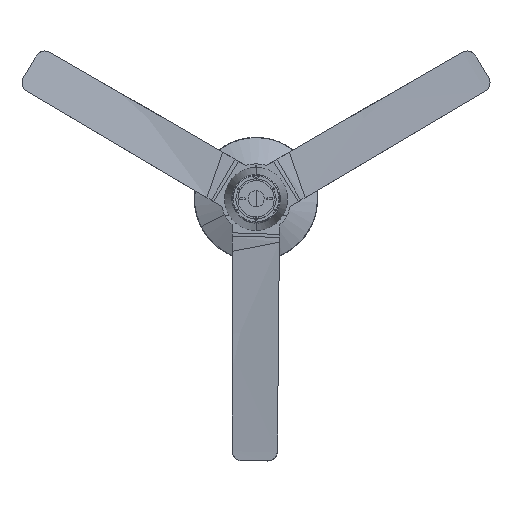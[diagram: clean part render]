
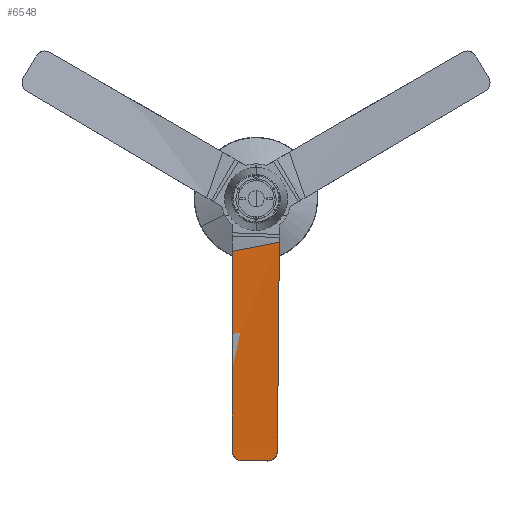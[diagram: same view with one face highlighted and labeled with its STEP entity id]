
A CAD part, top view. The second image highlights one B-rep face of the part: STEP entity #6548.
In plain terms, the highlighted free-form (B-spline) face has degree [3, 1] with [6, 2] control points.
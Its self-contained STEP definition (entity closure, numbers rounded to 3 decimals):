
#13=B_SPLINE_SURFACE_WITH_KNOTS('',3,1,((#34503,#34504),(#34505,#34506),
(#34507,#34508),(#34509,#34510),(#34511,#34512),(#34513,#34514)),
 .UNSPECIFIED.,.F.,.F.,.F.,(4,1,1,4),(2,2),(0.,184.784,369.567,
542.804),(0.,119.831),.UNSPECIFIED.);
#6548=ADVANCED_FACE('',(#7236),#13,.T.);
#7236=FACE_OUTER_BOUND('',#7969,.T.);
#7969=EDGE_LOOP('',(#11301,#11302,#11303,#11304,#11305,#11306));
#11301=ORIENTED_EDGE('',*,*,#13713,.T.);
#11302=ORIENTED_EDGE('',*,*,#13714,.T.);
#11303=ORIENTED_EDGE('',*,*,#13715,.T.);
#11304=ORIENTED_EDGE('',*,*,#13716,.T.);
#11305=ORIENTED_EDGE('',*,*,#13717,.T.);
#11306=ORIENTED_EDGE('',*,*,#13718,.T.);
#13713=EDGE_CURVE('',#18691,#18692,#15630,.T.);
#13714=EDGE_CURVE('',#18692,#18693,#15631,.T.);
#13715=EDGE_CURVE('',#18693,#18694,#15632,.T.);
#13716=EDGE_CURVE('',#18694,#18695,#15633,.T.);
#13717=EDGE_CURVE('',#18695,#18696,#15634,.T.);
#13718=EDGE_CURVE('',#18696,#18691,#15635,.T.);
#15630=B_SPLINE_CURVE_WITH_KNOTS('',1,(#34521,#34522),.UNSPECIFIED.,.F.,
 .F.,(2,2),(0.,119.505),.UNSPECIFIED.);
#15631=B_SPLINE_CURVE_WITH_KNOTS('',3,(#34523,#34524,#34525,#34526,#34527,
#34528,#34529,#34530,#34531,#34532,#34533,#34534,#34535,#34536,#34537,#34538,
#34539,#34540,#34541),.UNSPECIFIED.,.F.,.F.,(4,3,3,3,3,3,4),(0.,72.975,
152.356,248.414,334.537,422.643,496.831),
 .UNSPECIFIED.);
#15632=B_SPLINE_CURVE_WITH_KNOTS('',3,(#34542,#34543,#34544,#34545,#34546,
#34547,#34548,#34549,#34550,#34551),.UNSPECIFIED.,.F.,.F.,(4,2,2,2,4),(0.,
9.898,19.216,28.878,38.429),
 .UNSPECIFIED.);
#15633=B_SPLINE_CURVE_WITH_KNOTS('',3,(#34552,#34553,#34554,#34555,#34556,
#34557),.UNSPECIFIED.,.F.,.F.,(4,2,4),(0.,31.713,63.426),
 .UNSPECIFIED.);
#15634=B_SPLINE_CURVE_WITH_KNOTS('',3,(#34558,#34559,#34560,#34561,#34562,
#34563,#34564,#34565,#34566,#34567),.UNSPECIFIED.,.F.,.F.,(4,2,2,2,4),(0.,
9.02,18.45,27.437,36.898),
 .UNSPECIFIED.);
#15635=B_SPLINE_CURVE_WITH_KNOTS('',3,(#34568,#34569,#34570,#34571,#34572,
#34573),.UNSPECIFIED.,.F.,.F.,(4,2,4),(0.,260.471,520.938),
 .UNSPECIFIED.);
#18691=VERTEX_POINT('',#34515);
#18692=VERTEX_POINT('',#34516);
#18693=VERTEX_POINT('',#34517);
#18694=VERTEX_POINT('',#34518);
#18695=VERTEX_POINT('',#34519);
#18696=VERTEX_POINT('',#34520);
#34503=CARTESIAN_POINT('',(11391.834,-2177.303,60.021));
#34504=CARTESIAN_POINT('',(11509.378,-2154.623,65.367));
#34505=CARTESIAN_POINT('',(11391.834,-2236.286,55.29));
#34506=CARTESIAN_POINT('',(11509.378,-2216.2,64.498));
#34507=CARTESIAN_POINT('',(11391.834,-2354.466,48.277));
#34508=CARTESIAN_POINT('',(11509.378,-2339.377,63.552));
#34509=CARTESIAN_POINT('',(11391.834,-2528.35,45.194));
#34510=CARTESIAN_POINT('',(11509.378,-2520.318,64.488));
#34511=CARTESIAN_POINT('',(11391.834,-2643.031,47.776));
#34512=CARTESIAN_POINT('',(11509.378,-2639.649,66.592));
#34513=CARTESIAN_POINT('',(11391.834,-2698.474,50.105));
#34514=CARTESIAN_POINT('',(11509.378,-2697.38,67.958));
#34515=CARTESIAN_POINT('',(11509.378,-2154.623,65.367));
#34516=CARTESIAN_POINT('',(11392.155,-2177.241,60.036));
#34517=CARTESIAN_POINT('',(11392.101,-2673.664,49.176));
#34518=CARTESIAN_POINT('',(11416.901,-2697.379,53.879));
#34519=CARTESIAN_POINT('',(11479.603,-2697.649,63.435));
#34520=CARTESIAN_POINT('',(11504.439,-2675.501,66.691));
#34521=CARTESIAN_POINT('',(11509.378,-2154.623,65.367));
#34522=CARTESIAN_POINT('',(11392.155,-2177.241,60.036));
#34523=CARTESIAN_POINT('',(11392.155,-2177.241,60.036));
#34524=CARTESIAN_POINT('',(11392.095,-2201.496,58.093));
#34525=CARTESIAN_POINT('',(11392.043,-2225.758,56.355));
#34526=CARTESIAN_POINT('',(11392.,-2250.028,54.824));
#34527=CARTESIAN_POINT('',(11391.953,-2276.438,53.157));
#34528=CARTESIAN_POINT('',(11391.916,-2302.858,51.735));
#34529=CARTESIAN_POINT('',(11391.889,-2329.292,50.558));
#34530=CARTESIAN_POINT('',(11391.857,-2361.269,49.134));
#34531=CARTESIAN_POINT('',(11391.839,-2393.267,48.07));
#34532=CARTESIAN_POINT('',(11391.835,-2425.293,47.367));
#34533=CARTESIAN_POINT('',(11391.832,-2454.006,46.736));
#34534=CARTESIAN_POINT('',(11391.841,-2482.709,46.397));
#34535=CARTESIAN_POINT('',(11391.861,-2511.407,46.349));
#34536=CARTESIAN_POINT('',(11391.882,-2540.777,46.3));
#34537=CARTESIAN_POINT('',(11391.915,-2570.141,46.556));
#34538=CARTESIAN_POINT('',(11391.96,-2599.507,47.116));
#34539=CARTESIAN_POINT('',(11391.998,-2624.224,47.587));
#34540=CARTESIAN_POINT('',(11392.045,-2648.942,48.274));
#34541=CARTESIAN_POINT('',(11392.101,-2673.664,49.176));
#34542=CARTESIAN_POINT('',(11392.101,-2673.664,49.176));
#34543=CARTESIAN_POINT('',(11392.274,-2676.946,49.322));
#34544=CARTESIAN_POINT('',(11393.077,-2680.159,49.567));
#34545=CARTESIAN_POINT('',(11395.777,-2685.912,50.203));
#34546=CARTESIAN_POINT('',(11397.583,-2688.431,50.579));
#34547=CARTESIAN_POINT('',(11402.096,-2692.754,51.44));
#34548=CARTESIAN_POINT('',(11404.791,-2694.487,51.92));
#34549=CARTESIAN_POINT('',(11410.654,-2696.813,52.906));
#34550=CARTESIAN_POINT('',(11413.763,-2697.398,53.402));
#34551=CARTESIAN_POINT('',(11416.901,-2697.379,53.879));
#34552=CARTESIAN_POINT('',(11416.901,-2697.379,53.879));
#34553=CARTESIAN_POINT('',(11427.351,-2697.424,55.473));
#34554=CARTESIAN_POINT('',(11437.802,-2697.469,57.067));
#34555=CARTESIAN_POINT('',(11458.702,-2697.559,60.252));
#34556=CARTESIAN_POINT('',(11469.152,-2697.604,61.844));
#34557=CARTESIAN_POINT('',(11479.603,-2697.649,63.435));
#34558=CARTESIAN_POINT('',(11479.603,-2697.649,63.435));
#34559=CARTESIAN_POINT('',(11482.566,-2697.699,63.887));
#34560=CARTESIAN_POINT('',(11485.515,-2697.204,64.322));
#34561=CARTESIAN_POINT('',(11491.225,-2695.122,65.136));
#34562=CARTESIAN_POINT('',(11493.919,-2693.507,65.505));
#34563=CARTESIAN_POINT('',(11498.463,-2689.449,66.098));
#34564=CARTESIAN_POINT('',(11500.31,-2687.081,66.324));
#34565=CARTESIAN_POINT('',(11503.161,-2681.661,66.634));
#34566=CARTESIAN_POINT('',(11504.091,-2678.627,66.708));
#34567=CARTESIAN_POINT('',(11504.439,-2675.501,66.691));
#34568=CARTESIAN_POINT('',(11504.439,-2675.501,66.691));
#34569=CARTESIAN_POINT('',(11505.262,-2588.704,64.845));
#34570=CARTESIAN_POINT('',(11506.085,-2501.888,63.885));
#34571=CARTESIAN_POINT('',(11507.732,-2328.251,63.516));
#34572=CARTESIAN_POINT('',(11508.555,-2241.426,64.107));
#34573=CARTESIAN_POINT('',(11509.378,-2154.623,65.367));
